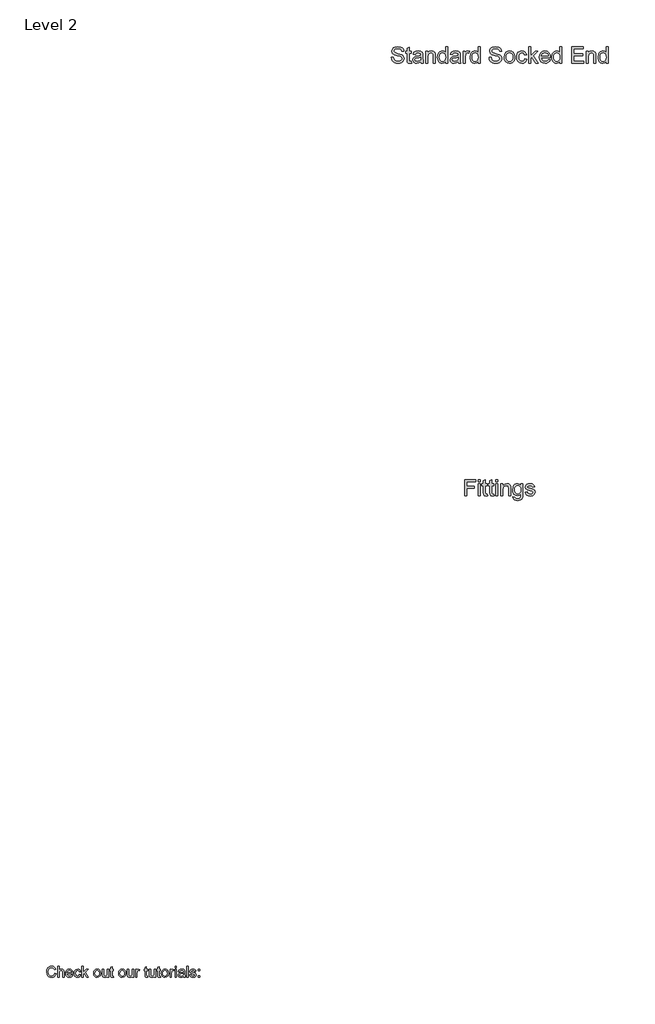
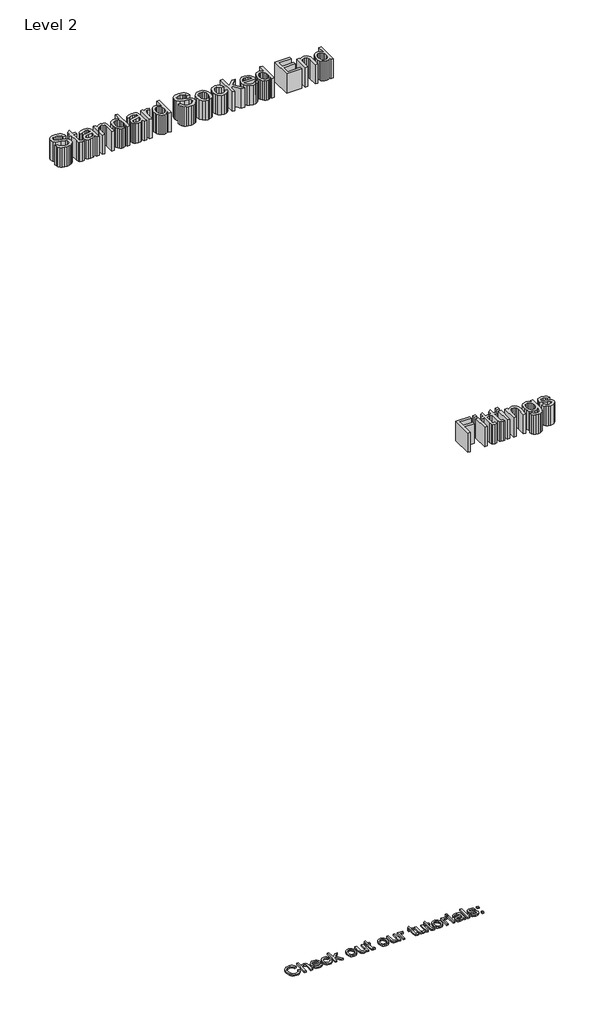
# One storey, part 1 of 2: 3 proxies.
"""IFC4 building model written with IfcOpenShell, lengths in millimetres."""

from ifc_helpers import new_model, si_unit, origin, origin_with_axes, place, context, project, spatial, polyline, outline, extrude, element, save

model = new_model("IFC4")

# Units and contexts
model_context = context("Model", 3, world=origin())
ifc_project = project(units=[si_unit("LENGTHUNIT", "METRE", prefix="MILLI")], contexts=[model_context])

# Site, building, storey
site = spatial("IfcSite", under=ifc_project)
building = spatial("IfcBuilding", under=site)
storey = spatial("IfcBuildingStorey", under=building, Name="Level 2", Elevation=0.0)

# Proxies
placement = place(None, origin())
element("IfcBuildingElementProxy", 1, Name="Arial 100", ObjectType="Arial 100", at=placement, inside=storey, context=model_context, shape_type="SweptSolid", body=[
    extrude(outline(polyline([(15956.3184158, -7572.0639447), (15968.8754545, -7575.3013062), (15963.0813131, -7589.9338126), (15953.9884965, -7600.6238502), (15942.0445944, -7607.1629527), (15927.6971966, -7609.3426535), (15913.1321352, -7607.6933159), (15901.5653122, -7602.7453031), (15892.6993561, -7594.6702933), (15886.2368957, -7583.6399648), (15880.9761832, -7556.7845791), (15882.4630396, -7542.1367444), (15886.9236088, -7529.4877351), (15894.1248988, -7519.2391558), (15903.8339178, -7511.7926111), (15915.3486242, -7507.2584655), (15927.9669767, -7505.7470837), (15941.7349604, -7507.7029896), (15953.1178424, -7513.5707074), (15961.7600036, -7522.9884865), (15967.3058247, -7535.5945762), (15954.7487859, -7538.5866831), (15944.4480901, -7523.147902), (15927.4764674, -7518.3041224), (15907.8315688, -7523.6751996), (15896.7337953, -7538.0961738), (15893.5332219, -7556.7600537), (15897.3224065, -7578.391515), (15909.1191558, -7592.2116153), (15926.4463978, -7596.7856147), (15936.9279689, -7595.2282476), (15945.6621006, -7590.5561463), (15952.2563854, -7582.8183617), (15956.3184158, -7572.0639447)])), origin_with_axes(), (0.0, 0.0, 1.0), 10.0),
    extrude(outline(polyline([(15984.571753, -7607.7730237), (15984.571753, -7507.3167135), (15997.1287918, -7507.3167135), (15997.1287918, -7544.2520658), (16006.9205842, -7535.3861097), (16018.9809823, -7532.4307911), (16033.0831254, -7535.6558899), (16041.6425132, -7544.5708969), (16044.2176872, -7561.0765357), (16044.2176872, -7607.7730237), (16031.6606484, -7607.7730237), (16031.6606484, -7562.3763855), (16027.6629974, -7549.1326336), (16016.3322319, -7544.9878298), (16006.0437988, -7547.783733), (15999.1766682, -7555.3621021), (15997.1287918, -7568.5813284), (15997.1287918, -7607.7730237), (15984.571753, -7607.7730237)])), origin_with_axes(), (0.0, 0.0, 1.0), 10.0),
    extrude(outline(polyline([(16113.1342476, -7585.7982058), (16125.4460317, -7587.3678357), (16121.009988, -7596.6445933), (16113.9313252, -7603.5791689), (16104.3694591, -7607.9017824), (16092.4838049, -7609.3426535), (16077.750131, -7606.8563844), (16066.4132342, -7599.3975769), (16059.184353, -7587.4506091), (16056.7747259, -7571.4998589), (16059.2088785, -7555.0126142), (16066.5113361, -7542.682436), (16077.6949487, -7534.9937023), (16091.7725664, -7532.4307911), (16105.4117914, -7534.9875709), (16116.3102955, -7542.6579105), (16123.4564032, -7554.9635633), (16125.8384392, -7571.4262825), (16125.7648628, -7574.8107969), (16069.3317647, -7574.8107969), (16071.5053341, -7584.2101819), (16076.5545145, -7591.120232), (16083.8416437, -7595.3692691), (16092.7290596, -7596.7856147), (16105.0408437, -7594.1613898), (16113.1342476, -7585.7982058)]), holes=[polyline([(16069.3317647, -7562.2537581), (16113.2814004, -7562.2537581), (16108.2536798, -7550.8739417), (16100.9328281, -7546.4593578), (16091.7235155, -7544.9878298), (16076.2602089, -7549.6844566), (16071.3949696, -7555.1750954), (16069.3317647, -7562.2537581)])]), origin_with_axes(), (0.0, 0.0, 1.0), 10.0),
    extrude(outline(polyline([(16185.4843733, -7581.0893163), (16198.0414121, -7582.6589461), (16194.5404018, -7593.8272304), (16187.9614454, -7602.2670565), (16178.9238111, -7607.5737543), (16168.0467667, -7609.3426535), (16154.6895846, -7606.8747785), (16144.2448016, -7599.4711533), (16137.5033641, -7587.4567405), (16135.2562182, -7571.1565024), (16139.0944537, -7550.2975933), (16150.7931012, -7536.8944259), (16167.8750885, -7532.4307911), (16178.4854183, -7533.9636327), (16186.968164, -7538.5621576), (16193.0535454, -7545.9811112), (16196.4717822, -7555.9752387), (16183.9147435, -7557.5448686), (16178.0899452, -7548.1393522), (16167.9731903, -7544.9878298), (16159.8583267, -7546.5390656), (16153.4173261, -7551.1927728), (16149.2142743, -7559.2003376), (16147.813257, -7570.8131459), (16149.1836174, -7582.582304), (16153.2946987, -7590.61746), (16159.6192034, -7595.243576), (16167.6298338, -7596.7856147), (16179.4633713, -7592.9351165), (16185.4843733, -7581.0893163)])), origin_with_axes(), (0.0, 0.0, 1.0), 10.0),
    extrude(outline(polyline([(16209.028821, -7607.7730237), (16209.028821, -7507.3167135), (16221.5858598, -7507.3167135), (16221.5858598, -7561.2972649), (16249.7410951, -7534.0004209), (16267.1051253, -7534.0004209), (16238.6065334, -7561.6406215), (16268.6747551, -7607.7730237), (16254.0085263, -7607.7730237), (16229.6056873, -7570.3716875), (16221.5858598, -7578.1462603), (16221.5858598, -7607.7730237), (16209.028821, -7607.7730237)])), origin_with_axes(), (0.0, 0.0, 1.0), 10.0),
    extrude(outline(polyline([(16315.7636505, -7570.8867223), (16318.4798459, -7553.0996278), (16326.6284321, -7540.5977713), (16336.6961361, -7534.4725361), (16348.7504028, -7532.4307911), (16361.942038, -7534.9170602), (16372.4787915, -7542.3758677), (16379.3857759, -7554.2186022), (16381.6881041, -7569.8566527), (16377.6168767, -7592.1993525), (16365.7588137, -7604.8422304), (16348.7504028, -7609.3426535), (16335.399352, -7606.8655814), (16324.8748613, -7599.4343651), (16318.0414532, -7587.3433102), (16315.7636505, -7570.8867223)]), holes=[polyline([(16328.3206893, -7570.8621968), (16329.7738232, -7582.2266848), (16334.1332248, -7590.3231544), (16340.6937871, -7595.1699996), (16348.7504028, -7596.7856147), (16356.7702303, -7595.1608026), (16363.3185298, -7590.2863662), (16367.6779314, -7582.0825977), (16369.1310653, -7570.4697894), (16367.6687344, -7559.4363952), (16363.2817416, -7551.4502902), (16356.724245, -7546.6034449), (16348.7504028, -7544.9878298), (16340.6937871, -7546.5973136), (16334.1332248, -7551.4257647), (16329.7738232, -7559.5038402), (16328.3206893, -7570.8621968)])]), origin_with_axes(), (0.0, 0.0, 1.0), 10.0),
    extrude(outline(polyline([(16442.9036681, -7607.7730237), (16442.9036681, -7595.0933576), (16433.0689561, -7605.7803295), (16420.2421372, -7609.3426535), (16408.4331251, -7606.8410559), (16400.2906703, -7600.5625366), (16396.5505367, -7591.3164357), (16395.8147727, -7579.6423138), (16395.8147727, -7534.0004209), (16408.3718115, -7534.0004209), (16408.3718115, -7573.7316764), (16409.1321009, -7586.5339698), (16414.0985078, -7594.0510252), (16423.4549733, -7596.7856147), (16433.9396101, -7593.9897116), (16440.8680544, -7586.3745543), (16442.9036681, -7572.3827757), (16442.9036681, -7534.0004209), (16455.4607068, -7534.0004209), (16455.4607068, -7607.7730237), (16442.9036681, -7607.7730237)])), origin_with_axes(), (0.0, 0.0, 1.0), 10.0),
    extrude(outline(polyline([(16499.4103425, -7597.3006495), (16500.9799724, -7608.1409057), (16491.5867188, -7609.3426535), (16481.0652937, -7607.2579889), (16475.8168439, -7601.7888099), (16474.296265, -7587.5395139), (16474.296265, -7546.5574597), (16464.8784859, -7546.5574597), (16464.8784859, -7534.0004209), (16474.296265, -7534.0004209), (16474.296265, -7516.072305), (16486.8533038, -7508.6901396), (16486.8533038, -7534.0004209), (16499.4103425, -7534.0004209), (16499.4103425, -7546.5574597), (16486.8533038, -7546.5574597), (16486.8533038, -7587.1716319), (16487.5154913, -7593.6463551), (16489.6614697, -7595.9394862), (16493.9411635, -7596.7856147), (16499.4103425, -7597.3006495)])), origin_with_axes(), (0.0, 0.0, 1.0), 10.0),
    extrude(outline(polyline([(16548.0688678, -7570.8867223), (16550.7850631, -7553.0996278), (16558.9336493, -7540.5977713), (16569.0013533, -7534.4725361), (16581.05562, -7532.4307911), (16594.2472552, -7534.9170602), (16604.7840087, -7542.3758677), (16611.6909931, -7554.2186022), (16613.9933213, -7569.8566527), (16609.9220939, -7592.1993525), (16598.0640309, -7604.8422304), (16581.05562, -7609.3426535), (16567.7045692, -7606.8655814), (16557.1800785, -7599.4343651), (16550.3466704, -7587.3433102), (16548.0688678, -7570.8867223)]), holes=[polyline([(16560.6259065, -7570.8621968), (16562.0790404, -7582.2266848), (16566.438442, -7590.3231544), (16572.9990043, -7595.1699996), (16581.05562, -7596.7856147), (16589.0754475, -7595.1608026), (16595.623747, -7590.2863662), (16599.9831486, -7582.0825977), (16601.4362825, -7570.4697894), (16599.9739516, -7559.4363952), (16595.5869588, -7551.4502902), (16589.0294622, -7546.6034449), (16581.05562, -7544.9878298), (16572.9990043, -7546.5973136), (16566.438442, -7551.4257647), (16562.0790404, -7559.5038402), (16560.6259065, -7570.8621968)])]), origin_with_axes(), (0.0, 0.0, 1.0), 10.0),
    extrude(outline(polyline([(16675.2088853, -7607.7730237), (16675.2088853, -7595.0933576), (16665.3741733, -7605.7803295), (16652.5473544, -7609.3426535), (16640.7383423, -7606.8410559), (16632.5958875, -7600.5625366), (16628.8557539, -7591.3164357), (16628.1199899, -7579.6423138), (16628.1199899, -7534.0004209), (16640.6770287, -7534.0004209), (16640.6770287, -7573.7316764), (16641.4373181, -7586.5339698), (16646.4037251, -7594.0510252), (16655.7601905, -7596.7856147), (16666.2448273, -7593.9897116), (16673.1732716, -7586.3745543), (16675.2088853, -7572.3827757), (16675.2088853, -7534.0004209), (16687.7659241, -7534.0004209), (16687.7659241, -7607.7730237), (16675.2088853, -7607.7730237)])), origin_with_axes(), (0.0, 0.0, 1.0), 10.0),
    extrude(outline(polyline([(16705.0318524, -7607.7730237), (16705.0318524, -7534.0004209), (16716.0192613, -7534.0004209), (16716.0192613, -7544.9142534), (16723.8183596, -7534.8588122), (16731.6665088, -7532.4307911), (16744.2725985, -7536.3058147), (16740.0787438, -7547.5630038), (16731.2495759, -7544.9878298), (16724.1494534, -7547.4649019), (16719.6245048, -7554.3320325), (16717.5888911, -7568.9982614), (16717.5888911, -7607.7730237), (16705.0318524, -7607.7730237)])), origin_with_axes(), (0.0, 0.0, 1.0), 10.0),
    extrude(outline(polyline([(16818.0452013, -7597.3006495), (16819.6148311, -7608.1409057), (16810.2215775, -7609.3426535), (16799.7001525, -7607.2579889), (16794.4517027, -7601.7888099), (16792.9311237, -7587.5395139), (16792.9311237, -7546.5574597), (16783.5133447, -7546.5574597), (16783.5133447, -7534.0004209), (16792.9311237, -7534.0004209), (16792.9311237, -7516.072305), (16805.4881625, -7508.6901396), (16805.4881625, -7534.0004209), (16818.0452013, -7534.0004209), (16818.0452013, -7546.5574597), (16805.4881625, -7546.5574597), (16805.4881625, -7587.1716319), (16806.1503501, -7593.6463551), (16808.2963284, -7595.9394862), (16812.5760223, -7596.7856147), (16818.0452013, -7597.3006495)])), origin_with_axes(), (0.0, 0.0, 1.0), 10.0),
    extrude(outline(polyline([(16877.6911354, -7607.7730237), (16877.6911354, -7595.0933576), (16867.8564234, -7605.7803295), (16855.0296045, -7609.3426535), (16843.2205925, -7606.8410559), (16835.0781377, -7600.5625366), (16831.338004, -7591.3164357), (16830.60224, -7579.6423138), (16830.60224, -7534.0004209), (16843.1592788, -7534.0004209), (16843.1592788, -7573.7316764), (16843.9195683, -7586.5339698), (16848.8859752, -7594.0510252), (16858.2424406, -7596.7856147), (16868.7270775, -7593.9897116), (16875.6555217, -7586.3745543), (16877.6911354, -7572.3827757), (16877.6911354, -7534.0004209), (16890.2481742, -7534.0004209), (16890.2481742, -7607.7730237), (16877.6911354, -7607.7730237)])), origin_with_axes(), (0.0, 0.0, 1.0), 10.0),
    extrude(outline(polyline([(16934.1978099, -7597.3006495), (16935.7674397, -7608.1409057), (16926.3741861, -7609.3426535), (16915.8527611, -7607.2579889), (16910.6043113, -7601.7888099), (16909.0837324, -7587.5395139), (16909.0837324, -7546.5574597), (16899.6659533, -7546.5574597), (16899.6659533, -7534.0004209), (16909.0837324, -7534.0004209), (16909.0837324, -7516.072305), (16921.6407711, -7508.6901396), (16921.6407711, -7534.0004209), (16934.1978099, -7534.0004209), (16934.1978099, -7546.5574597), (16921.6407711, -7546.5574597), (16921.6407711, -7587.1716319), (16922.3029587, -7593.6463551), (16924.448937, -7595.9394862), (16928.7286309, -7596.7856147), (16934.1978099, -7597.3006495)])), origin_with_axes(), (0.0, 0.0, 1.0), 10.0),
    extrude(outline(polyline([(16943.615589, -7570.8867223), (16946.3317844, -7553.0996278), (16954.4803706, -7540.5977713), (16964.5480745, -7534.4725361), (16976.6023412, -7532.4307911), (16989.7939764, -7534.9170602), (17000.3307299, -7542.3758677), (17007.2377143, -7554.2186022), (17009.5400425, -7569.8566527), (17005.4688151, -7592.1993525), (16993.6107521, -7604.8422304), (16976.6023412, -7609.3426535), (16963.2512905, -7606.8655814), (16952.7267997, -7599.4343651), (16945.8933917, -7587.3433102), (16943.615589, -7570.8867223)]), holes=[polyline([(16956.1726277, -7570.8621968), (16957.6257616, -7582.2266848), (16961.9851633, -7590.3231544), (16968.5457255, -7595.1699996), (16976.6023412, -7596.7856147), (16984.6221687, -7595.1608026), (16991.1704682, -7590.2863662), (16995.5298699, -7582.0825977), (16996.9830037, -7570.4697894), (16995.5206728, -7559.4363952), (16991.13368, -7551.4502902), (16984.5761834, -7546.6034449), (16976.6023412, -7544.9878298), (16968.5457255, -7546.5973136), (16961.9851633, -7551.4257647), (16957.6257616, -7559.5038402), (16956.1726277, -7570.8621968)])]), origin_with_axes(), (0.0, 0.0, 1.0), 10.0),
    extrude(outline(polyline([(17023.6667111, -7607.7730237), (17023.6667111, -7534.0004209), (17034.65412, -7534.0004209), (17034.65412, -7544.9142534), (17042.4532183, -7534.8588122), (17050.3013676, -7532.4307911), (17062.9074573, -7536.3058147), (17058.7136025, -7547.5630038), (17049.8844346, -7544.9878298), (17042.7843121, -7547.4649019), (17038.2593636, -7554.3320325), (17036.2237499, -7568.9982614), (17036.2237499, -7607.7730237), (17023.6667111, -7607.7730237)])), origin_with_axes(), (0.0, 0.0, 1.0), 10.0),
    extrude(outline(polyline([(17070.7556065, -7519.8737523), (17070.7556065, -7507.3167135), (17083.3126453, -7507.3167135), (17083.3126453, -7519.8737523), (17070.7556065, -7519.8737523)])), origin_with_axes(), (0.0, 0.0, 1.0), 10.0),
    extrude(outline(polyline([(17070.7556065, -7607.7730237), (17070.7556065, -7534.0004209), (17083.3126453, -7534.0004209), (17083.3126453, -7607.7730237), (17070.7556065, -7607.7730237)])), origin_with_axes(), (0.0, 0.0, 1.0), 10.0),
    extrude(outline(polyline([(17149.2370988, -7598.3552446), (17137.0602048, -7606.8655814), (17123.6079865, -7609.3426535), (17113.1141526, -7607.8527314), (17105.3733022, -7603.3829652), (17100.6000334, -7596.5955424), (17099.0089437, -7588.1526506), (17101.4124394, -7578.2198367), (17107.727747, -7571.0093496), (17116.5201267, -7566.8890713), (17127.3849083, -7565.0006104), (17149.1635224, -7560.6841283), (17149.2370988, -7557.8882251), (17145.779008, -7548.6175988), (17131.8975941, -7544.9878298), (17119.1934025, -7547.4035883), (17113.1356123, -7555.9752387), (17100.5785736, -7554.4056089), (17106.0109644, -7542.1428757), (17116.9493224, -7534.9569141), (17133.5162749, -7532.4307911), (17148.7343267, -7534.6626085), (17157.3305027, -7540.2666776), (17161.1810009, -7548.7892771), (17161.7941376, -7559.776686), (17161.7941376, -7575.3994081), (17162.4317997, -7597.2148104), (17164.9333973, -7607.7730237), (17152.3763585, -7607.7730237), (17149.2370988, -7598.3552446)]), holes=[polyline([(17149.2370988, -7573.2411671), (17128.9790636, -7577.0916653), (17118.1755957, -7579.127279), (17113.2827651, -7582.4382169), (17111.5659825, -7587.2697338), (17115.3061161, -7594.063288), (17126.2812623, -7596.7856147), (17138.9854539, -7593.7812451), (17147.1769596, -7586.5094443), (17149.1635224, -7576.7973597), (17149.2370988, -7573.2411671)])]), origin_with_axes(), (0.0, 0.0, 1.0), 10.0),
    extrude(outline(polyline([(17179.0600659, -7607.7730237), (17179.0600659, -7507.3167135), (17191.6171046, -7507.3167135), (17191.6171046, -7607.7730237), (17179.0600659, -7607.7730237)])), origin_with_axes(), (0.0, 0.0, 1.0), 10.0),
    extrude(outline(polyline([(17205.7437733, -7585.7982058), (17218.300812, -7584.228576), (17224.1133476, -7593.5482532), (17237.4306758, -7596.7856147), (17250.2329692, -7593.8180333), (17254.4022985, -7586.8528009), (17250.2084437, -7581.2119436), (17237.283523, -7577.6312255), (17218.3743884, -7571.4875962), (17210.121569, -7564.3138973), (17207.3134031, -7554.1848797), (17209.569746, -7544.8284143), (17215.7256381, -7537.6792409), (17223.7086774, -7533.9636327), (17234.5121453, -7532.4307911), (17249.7915108, -7534.8956004), (17259.5035955, -7541.5665273), (17263.8200776, -7552.8359791), (17251.2630388, -7554.4056089), (17246.5418865, -7547.4771647), (17235.4931639, -7544.9878298), (17223.4756854, -7547.3668001), (17219.8704419, -7552.9095555), (17221.3664953, -7556.5638499), (17226.0508594, -7559.3352276), (17236.8665901, -7562.0085035), (17255.297478, -7567.9191409), (17263.8568658, -7574.6145932), (17266.9593373, -7585.5284257), (17263.3173055, -7597.5459042), (17252.8081432, -7606.2647075), (17237.2589975, -7609.3426535), (17224.5977255, -7607.8588628), (17215.3577561, -7603.4074907), (17209.1896013, -7596.037588), (17205.7437733, -7585.7982058)])), origin_with_axes(), (0.0, 0.0, 1.0), 10.0),
    extrude(outline(polyline([(17284.2252656, -7607.7730237), (17284.2252656, -7595.2159849), (17296.7823043, -7595.2159849), (17296.7823043, -7607.7730237), (17284.2252656, -7607.7730237)])), origin_with_axes(), (0.0, 0.0, 1.0), 10.0),
    extrude(outline(polyline([(17284.2252656, -7546.5574597), (17284.2252656, -7534.0004209), (17296.7823043, -7534.0004209), (17296.7823043, -7546.5574597), (17284.2252656, -7546.5574597)])), origin_with_axes(), (0.0, 0.0, 1.0), 10.0),
])
element("IfcBuildingElementProxy", 2, Name="Arial 150", ObjectType="Arial 150", at=placement, inside=storey, context=model_context, shape_type="SweptSolid", body=[
    extrude(outline(polyline([(19072.1802626, 903.6990626), (19091.0158207, 903.6990626), (19097.0858736, 884.8451104), (19111.911518, 872.9257337), (19134.4994725, 868.3823911), (19154.1811593, 871.8220877), (19166.8914822, 881.276655), (19171.0669429, 893.9134016), (19167.9399459, 905.6672313), (19155.1376525, 914.2204877), (19127.7120497, 921.4125807), (19098.1895196, 930.7016011), (19082.1682587, 944.7179051), (19076.8891521, 963.4430986), (19078.5216285, 974.47496), (19083.4190575, 984.7618603), (19091.4526806, 993.4806636), (19102.493739, 999.8082339), (19130.4159824, 1004.9401877), (19160.214424, 999.5691106), (19171.63716, 992.9380376), (19180.0800517, 983.786973), (19185.4235377, 972.6861338), (19187.5480562, 960.2057371), (19168.7124981, 960.2057371), (19165.2544073, 971.444532), (19158.0439202, 979.55633), (19146.7775341, 984.4675547), (19131.1517464, 986.1046295), (19115.1580766, 984.4859488), (19104.1859961, 979.6299064), (19097.8400317, 972.4837987), (19095.7247103, 963.9949216), (19097.2238294, 956.7568434), (19101.7211868, 950.9351108), (19132.4761216, 940.4136857), (19165.8062303, 930.9591185), (19176.5437861, 924.1257104), (19184.0347832, 915.6920157), (19188.4355716, 905.7500048), (19189.902501, 894.3916482), (19188.2148424, 882.7803727), (19183.1518664, 871.8588759), (19174.9205068, 862.459491), (19163.7276971, 855.4145508), (19150.2678146, 851.0137624), (19135.2352365, 849.5468329), (19116.781356, 851.1287255), (19101.5924281, 855.8744033), (19089.493709, 863.8022603), (19080.3104547, 874.9306906), (19074.4151457, 888.4871421), (19072.1802626, 903.6990626)])), origin_with_axes(), (0.0, 0.0, 1.0), 150.0),
    extrude(outline(polyline([(19255.8269546, 867.6098389), (19258.1813993, 851.3494547), (19244.0915189, 849.5468329), (19228.3093813, 852.6738299), (19220.4367066, 860.8775984), (19218.1558382, 882.2515423), (19218.1558382, 943.7246237), (19204.0291696, 943.7246237), (19204.0291696, 962.5601819), (19218.1558382, 962.5601819), (19218.1558382, 989.4523557), (19236.9913964, 1000.5256038), (19236.9913964, 962.5601819), (19255.8269546, 962.5601819), (19255.8269546, 943.7246237), (19236.9913964, 943.7246237), (19236.9913964, 882.8033653), (19237.9846778, 873.0912806), (19241.2036452, 869.651584), (19247.6231861, 868.3823911), (19255.8269546, 867.6098389)])), origin_with_axes(), (0.0, 0.0, 1.0), 150.0),
    extrude(outline(polyline([(19345.2958558, 866.0279463), (19327.0305147, 853.2624411), (19306.8521873, 849.5468329), (19291.1114364, 851.7817161), (19279.5001609, 858.4863654), (19272.3402576, 868.6674996), (19269.9536232, 881.3318373), (19273.5588667, 896.2310581), (19283.0318281, 907.0467888), (19296.2203976, 913.2272063), (19312.51757, 916.0598977), (19345.1854912, 922.5346208), (19345.2958558, 926.7284755), (19343.9990717, 935.1345791), (19340.1087196, 940.6344149), (19331.4083105, 944.7179051), (19319.2865987, 946.0790685), (19300.2303114, 942.4554308), (19291.1436261, 929.5979551), (19272.3080679, 931.9523999), (19280.4566541, 950.3464996), (19296.8641911, 961.1254421), (19321.7146199, 964.9146266), (19344.5416977, 961.5669005), (19357.4359616, 953.1607969), (19363.2117089, 940.3768975), (19364.1314139, 923.8957842), (19364.1314139, 900.4617011), (19365.0879071, 867.7385976), (19368.8403035, 851.9012777), (19350.0047453, 851.9012777), (19345.2958558, 866.0279463)]), holes=[polyline([(19345.2958558, 903.6990626), (19314.908803, 897.9233153), (19298.7036011, 894.8698947), (19291.3643553, 889.9034878), (19288.7891813, 882.6562125), (19294.3993817, 872.4658812), (19310.862101, 868.3823911), (19329.9183884, 872.8889455), (19342.205647, 883.7966467), (19345.1854912, 898.3647737), (19345.2958558, 903.6990626)])]), origin_with_axes(), (0.0, 0.0, 1.0), 150.0),
    extrude(outline(polyline([(19390.0303064, 851.9012777), (19390.0303064, 962.5601819), (19408.8658645, 962.5601819), (19408.8658645, 947.1091381), (19423.2684447, 960.4632545), (19442.9317373, 964.9146266), (19460.7188318, 961.3277772), (19472.8589376, 951.9099981), (19478.5059262, 938.059241), (19479.4992076, 919.8490822), (19479.4992076, 851.9012777), (19460.6636495, 851.9012777), (19460.6636495, 917.3106965), (19458.4931457, 933.9757508), (19450.8228061, 942.7865246), (19437.891754, 946.0790685), (19426.8598926, 944.2304614), (19417.4559091, 938.6846404), (19411.0133757, 927.9700773), (19408.8658645, 910.6152441), (19408.8658645, 851.9012777), (19390.0303064, 851.9012777)])), origin_with_axes(), (0.0, 0.0, 1.0), 150.0),
    extrude(outline(polyline([(19573.6769984, 851.9012777), (19573.6769984, 869.6699781), (19561.2149958, 854.5776192), (19543.9889214, 849.5468329), (19531.8120273, 851.3678488), (19520.6652029, 856.8308964), (19511.2290297, 865.5542983), (19504.1840895, 877.1563767), (19499.7970967, 891.1680822), (19498.3347658, 907.1203652), (19503.724237, 937.1027478), (19510.4564775, 948.9945333), (19519.8742566, 957.7409277), (19531.2648029, 963.1212019), (19543.915345, 964.9146266), (19561.2793751, 959.7826728), (19573.6769984, 946.4469505), (19573.6769984, 1002.5857429), (19592.5125565, 1002.5857429), (19592.5125565, 851.9012777), (19573.6769984, 851.9012777)]), holes=[polyline([(19517.1703239, 907.1939416), (19519.2948424, 890.1564067), (19525.668398, 878.0392935), (19534.9298272, 870.7966167), (19545.7179668, 868.3823911), (19556.5015077, 870.6862521), (19565.5284122, 877.5978351), (19571.6398518, 889.2458987), (19573.6769984, 905.7592018), (19571.6030636, 923.8130107), (19565.3812594, 936.3301956), (19556.1244287, 943.6418503), (19544.9454146, 946.0790685), (19534.0469105, 943.7384193), (19525.116575, 936.7164717), (19519.1568867, 924.6545408), (19517.1703239, 907.1939416)])]), origin_with_axes(), (0.0, 0.0, 1.0), 150.0),
    extrude(outline(polyline([(19691.3992368, 866.0279463), (19673.1338958, 853.2624411), (19652.9555683, 849.5468329), (19637.2148175, 851.7817161), (19625.603542, 858.4863654), (19618.4436387, 868.6674996), (19616.0570042, 881.3318373), (19619.6622478, 896.2310581), (19629.1352092, 907.0467888), (19642.3237787, 913.2272063), (19658.6209511, 916.0598977), (19691.2888722, 922.5346208), (19691.3992368, 926.7284755), (19690.1024528, 935.1345791), (19686.2121007, 940.6344149), (19677.5116915, 944.7179051), (19665.3899798, 946.0790685), (19646.3336924, 942.4554308), (19637.2470072, 929.5979551), (19618.411449, 931.9523999), (19626.5600352, 950.3464996), (19642.9675722, 961.1254421), (19667.818001, 964.9146266), (19690.6450788, 961.5669005), (19703.5393427, 953.1607969), (19709.31509, 940.3768975), (19710.234795, 923.8957842), (19710.234795, 900.4617011), (19711.1912882, 867.7385976), (19714.9436845, 851.9012777), (19696.1081264, 851.9012777), (19691.3992368, 866.0279463)]), holes=[polyline([(19691.3992368, 903.6990626), (19661.012184, 897.9233153), (19644.8069822, 894.8698947), (19637.4677364, 889.9034878), (19634.8925624, 882.6562125), (19640.5027628, 872.4658812), (19656.9654821, 868.3823911), (19676.0217694, 872.8889455), (19688.3090281, 883.7966467), (19691.2888722, 898.3647737), (19691.3992368, 903.6990626)])]), origin_with_axes(), (0.0, 0.0, 1.0), 150.0),
    extrude(outline(polyline([(19736.1336875, 851.9012777), (19736.1336875, 962.5601819), (19752.6148008, 962.5601819), (19752.6148008, 946.1894331), (19764.3134483, 961.2725949), (19776.0856721, 964.9146266), (19794.9948067, 959.1020911), (19788.7040246, 942.2163075), (19775.4602727, 946.0790685), (19764.810089, 942.3634603), (19758.0226662, 932.0627645), (19754.9692456, 910.0634211), (19754.9692456, 851.9012777), (19736.1336875, 851.9012777)])), origin_with_axes(), (0.0, 0.0, 1.0), 150.0),
    extrude(outline(polyline([(19875.0459288, 851.9012777), (19875.0459288, 869.6699781), (19862.5839262, 854.5776192), (19845.3578518, 849.5468329), (19833.1809578, 851.3678488), (19822.0341333, 856.8308964), (19812.5979602, 865.5542983), (19805.5530199, 877.1563767), (19801.1660272, 891.1680822), (19799.7036962, 907.1203652), (19805.0931675, 937.1027478), (19811.825408, 948.9945333), (19821.243187, 957.7409277), (19832.6337333, 963.1212019), (19845.2842754, 964.9146266), (19862.6483056, 959.7826728), (19875.0459288, 946.4469505), (19875.0459288, 1002.5857429), (19893.881487, 1002.5857429), (19893.881487, 851.9012777), (19875.0459288, 851.9012777)]), holes=[polyline([(19818.5392544, 907.1939416), (19820.6637729, 890.1564067), (19827.0373285, 878.0392935), (19836.2987577, 870.7966167), (19847.0868972, 868.3823911), (19857.8704382, 870.6862521), (19866.8973426, 877.5978351), (19873.0087823, 889.2458987), (19875.0459288, 905.7592018), (19872.9719941, 923.8130107), (19866.7501898, 936.3301956), (19857.4933591, 943.6418503), (19846.314345, 946.0790685), (19835.4158409, 943.7384193), (19826.4855055, 936.7164717), (19820.5258172, 924.6545408), (19818.5392544, 907.1939416)])]), origin_with_axes(), (0.0, 0.0, 1.0), 150.0),
    extrude(outline(polyline([(19976.2870539, 903.6990626), (19995.1226121, 903.6990626), (20001.192665, 884.8451104), (20016.0183094, 872.9257337), (20038.6062639, 868.3823911), (20058.2879506, 871.8220877), (20070.9982736, 881.276655), (20075.1737342, 893.9134016), (20072.0467373, 905.6672313), (20059.2444438, 914.2204877), (20031.8188411, 921.4125807), (20002.296311, 930.7016011), (19986.2750501, 944.7179051), (19980.9959434, 963.4430986), (19982.6284198, 974.47496), (19987.5258489, 984.7618603), (19995.5594719, 993.4806636), (20006.6005303, 999.8082339), (20034.5227737, 1004.9401877), (20064.3212154, 999.5691106), (20075.7439513, 992.9380376), (20084.1868431, 983.786973), (20089.5303291, 972.6861338), (20091.6548476, 960.2057371), (20072.8192894, 960.2057371), (20069.3611987, 971.444532), (20062.1507116, 979.55633), (20050.8843255, 984.4675547), (20035.2585377, 986.1046295), (20019.264868, 984.4859488), (20008.2927875, 979.6299064), (20001.9468231, 972.4837987), (19999.8315016, 963.9949216), (20001.3306207, 956.7568434), (20005.8279781, 950.9351108), (20036.5829129, 940.4136857), (20069.9130217, 930.9591185), (20080.6505774, 924.1257104), (20088.1415745, 915.6920157), (20092.5423629, 905.7500048), (20094.0092924, 894.3916482), (20092.3216337, 882.7803727), (20087.2586578, 871.8588759), (20079.0272981, 862.459491), (20067.8344884, 855.4145508), (20054.3746059, 851.0137624), (20039.3420279, 849.5468329), (20020.8881473, 851.1287255), (20005.6992194, 855.8744033), (19993.6005003, 863.8022603), (19984.417246, 874.9306906), (19978.521937, 888.4871421), (19976.2870539, 903.6990626)])), origin_with_axes(), (0.0, 0.0, 1.0), 150.0),
    extrude(outline(polyline([(20115.1992953, 907.2307298), (20119.2735884, 933.9113715), (20131.4964677, 952.6641562), (20146.5980236, 961.852009), (20164.6794236, 964.9146266), (20184.4668765, 961.1852229), (20200.2720067, 949.9970117), (20210.6324834, 932.2329099), (20214.0859756, 908.7758342), (20212.5592653, 889.747138), (20207.9791345, 875.2617844), (20200.4789403, 864.4138641), (20190.19204, 856.2974676), (20177.9737592, 851.2344916), (20164.6794236, 849.5468329), (20144.6528475, 853.2624411), (20128.8661114, 864.4092655), (20118.6159993, 882.5458479), (20115.1992953, 907.2307298)]), holes=[polyline([(20134.0348534, 907.267518), (20136.2145543, 890.220786), (20142.7536567, 878.0760817), (20152.5945001, 870.8058137), (20164.6794236, 868.3823911), (20176.7091649, 870.8196093), (20186.5316142, 878.131264), (20193.0707166, 890.4369167), (20195.2504174, 907.8561292), (20193.056921, 924.4062204), (20186.4764319, 936.3853779), (20176.640187, 943.6556458), (20164.6794236, 946.0790685), (20152.5945001, 943.6648429), (20142.7536567, 936.4221661), (20136.2145543, 924.3050529), (20134.0348534, 907.267518)])]), origin_with_axes(), (0.0, 0.0, 1.0), 150.0),
    extrude(outline(polyline([(20305.9093216, 891.9268388), (20324.7448797, 889.572394), (20319.4933643, 872.8199677), (20309.6249297, 860.1602285), (20296.0684782, 852.2001818), (20279.7529117, 849.5468329), (20259.7171386, 853.2486455), (20244.0499641, 864.3540832), (20233.9378078, 882.3757025), (20230.567089, 906.8260596), (20232.0064273, 923.587683), (20236.3244422, 938.1144233), (20243.5901116, 949.8452604), (20253.8724134, 958.2191743), (20266.1734676, 963.2407635), (20279.4953943, 964.9146266), (20295.4108891, 962.6153642), (20308.1350077, 955.7175767), (20317.2630797, 944.5891464), (20322.390435, 929.5979551), (20303.5548768, 927.2435103), (20294.8176794, 941.3517848), (20279.6425471, 946.0790685), (20267.4702516, 943.7522149), (20257.8087507, 936.771654), (20251.504173, 924.7603069), (20249.4026471, 907.3410944), (20251.4581878, 889.6873571), (20257.6248097, 877.6346233), (20267.1115667, 870.6954491), (20279.1275123, 868.3823911), (20288.8809837, 869.8263279), (20296.8778186, 874.1581384), (20302.6949527, 881.4881872), (20305.9093216, 891.9268388)])), origin_with_axes(), (0.0, 0.0, 1.0), 150.0),
    extrude(outline(polyline([(20341.2259931, 851.9012777), (20341.2259931, 1002.5857429), (20360.0615513, 1002.5857429), (20360.0615513, 921.6149158), (20402.2944043, 962.5601819), (20428.3404496, 962.5601819), (20385.5925617, 921.099881), (20430.6948944, 851.9012777), (20408.695551, 851.9012777), (20372.0912925, 908.003282), (20360.0615513, 896.3414227), (20360.0615513, 851.9012777), (20341.2259931, 851.9012777)])), origin_with_axes(), (0.0, 0.0, 1.0), 150.0),
    extrude(outline(polyline([(20524.6519559, 884.8635045), (20543.1196321, 882.5090597), (20536.4655665, 868.5939232), (20525.8475724, 858.1920598), (20511.5047731, 851.7081397), (20493.6762919, 849.5468329), (20471.5757811, 853.2762367), (20454.5704358, 864.4644478), (20443.727114, 882.3848995), (20440.1126734, 906.3110248), (20443.7639022, 931.0418919), (20454.7175886, 949.5371592), (20471.4930076, 961.0702598), (20492.6094341, 964.9146266), (20513.0682716, 961.0794568), (20529.4160278, 949.5739474), (20540.1351894, 931.1154683), (20543.7082433, 906.4213894), (20543.5978787, 901.3446179), (20458.9482316, 901.3446179), (20462.2085858, 887.2455404), (20469.7823563, 876.8804652), (20480.7130501, 870.5069096), (20494.0441739, 868.3823911), (20512.5118501, 872.3187284), (20524.6519559, 884.8635045)]), holes=[polyline([(20458.9482316, 920.180176), (20524.8726851, 920.180176), (20522.3251023, 930.131384), (20517.3311042, 937.2499006), (20506.3498267, 943.8717765), (20492.5358577, 946.0790685), (20479.8393304, 944.3178334), (20469.3408979, 939.0341283), (20462.0430389, 930.7981701), (20458.9482316, 920.180176)])]), origin_with_axes(), (0.0, 0.0, 1.0), 150.0),
    extrude(outline(polyline([(20630.8226997, 851.9012777), (20630.8226997, 869.6699781), (20618.3606971, 854.5776192), (20601.1346227, 849.5468329), (20588.9577287, 851.3678488), (20577.8109042, 856.8308964), (20568.374731, 865.5542983), (20561.3297908, 877.1563767), (20556.942798, 891.1680822), (20555.4804671, 907.1203652), (20560.8699383, 937.1027478), (20567.6021789, 948.9945333), (20577.0199579, 957.7409277), (20588.4105042, 963.1212019), (20601.0610463, 964.9146266), (20618.4250765, 959.7826728), (20630.8226997, 946.4469505), (20630.8226997, 1002.5857429), (20649.6582579, 1002.5857429), (20649.6582579, 851.9012777), (20630.8226997, 851.9012777)]), holes=[polyline([(20574.3160253, 907.1939416), (20576.4405438, 890.1564067), (20582.8140994, 878.0392935), (20592.0755286, 870.7966167), (20602.8636681, 868.3823911), (20613.6472091, 870.6862521), (20622.6741135, 877.5978351), (20628.7855532, 889.2458987), (20630.8226997, 905.7592018), (20628.748765, 923.8130107), (20622.5269607, 936.3301956), (20613.27013, 943.6418503), (20602.0911159, 946.0790685), (20591.1926118, 943.7384193), (20582.2622764, 936.7164717), (20576.302588, 924.6545408), (20574.3160253, 907.1939416)])]), origin_with_axes(), (0.0, 0.0, 1.0), 150.0),
    extrude(outline(polyline([(20739.1271591, 851.9012777), (20739.1271591, 1002.5857429), (20847.4316185, 1002.5857429), (20847.4316185, 983.7501848), (20757.9627173, 983.7501848), (20757.9627173, 939.0157342), (20842.7227289, 939.0157342), (20842.7227289, 920.180176), (20757.9627173, 920.180176), (20757.9627173, 870.7368359), (20849.7860633, 870.7368359), (20849.7860633, 851.9012777), (20739.1271591, 851.9012777)])), origin_with_axes(), (0.0, 0.0, 1.0), 150.0),
    extrude(outline(polyline([(20875.6849557, 851.9012777), (20875.6849557, 962.5601819), (20894.5205139, 962.5601819), (20894.5205139, 947.1091381), (20908.923094, 960.4632545), (20928.5863866, 964.9146266), (20946.3734811, 961.3277772), (20958.5135869, 951.9099981), (20964.1605756, 938.059241), (20965.1538569, 919.8490822), (20965.1538569, 851.9012777), (20946.3182988, 851.9012777), (20946.3182988, 917.3106965), (20944.147795, 933.9757508), (20936.4774554, 942.7865246), (20923.5464033, 946.0790685), (20912.514542, 944.2304614), (20903.1105585, 938.6846404), (20896.668025, 927.9700773), (20894.5205139, 910.6152441), (20894.5205139, 851.9012777), (20875.6849557, 851.9012777)])), origin_with_axes(), (0.0, 0.0, 1.0), 150.0),
    extrude(outline(polyline([(21059.3316477, 851.9012777), (21059.3316477, 869.6699781), (21046.8696451, 854.5776192), (21029.6435707, 849.5468329), (21017.4666767, 851.3678488), (21006.3198522, 856.8308964), (20996.883679, 865.5542983), (20989.8387388, 877.1563767), (20985.451746, 891.1680822), (20983.9894151, 907.1203652), (20989.3788863, 937.1027478), (20996.1111268, 948.9945333), (21005.5289059, 957.7409277), (21016.9194522, 963.1212019), (21029.5699943, 964.9146266), (21046.9340245, 959.7826728), (21059.3316477, 946.4469505), (21059.3316477, 1002.5857429), (21078.1672059, 1002.5857429), (21078.1672059, 851.9012777), (21059.3316477, 851.9012777)]), holes=[polyline([(21002.8249732, 907.1939416), (21004.9494918, 890.1564067), (21011.3230473, 878.0392935), (21020.5844766, 870.7966167), (21031.3726161, 868.3823911), (21042.1561571, 870.6862521), (21051.1830615, 877.5978351), (21057.2945012, 889.2458987), (21059.3316477, 905.7592018), (21057.257713, 923.8130107), (21051.0359087, 936.3301956), (21041.779078, 943.6418503), (21030.6000639, 946.0790685), (21019.7015598, 943.7384193), (21010.7712243, 936.7164717), (21004.811536, 924.6545408), (21002.8249732, 907.1939416)])]), origin_with_axes(), (0.0, 0.0, 1.0), 150.0),
])
element("IfcBuildingElementProxy", 3, Name="Arial 150", ObjectType="Arial 150", at=placement, inside=storey, context=model_context, shape_type="SweptSolid", body=[
    extrude(outline(polyline([(19749.2435969, -3152.3231621), (19749.2435969, -3001.6386969), (19850.4847219, -3001.6386969), (19850.4847219, -3020.474255), (19768.079155, -3020.474255), (19768.079155, -3065.2087056), (19838.7124981, -3065.2087056), (19838.7124981, -3084.0442638), (19768.079155, -3084.0442638), (19768.079155, -3152.3231621), (19749.2435969, -3152.3231621)])), origin_with_axes(), (0.0, 0.0, 1.0), 150.0),
    extrude(outline(polyline([(19874.0291696, -3020.474255), (19874.0291696, -3001.6386969), (19892.8647278, -3001.6386969), (19892.8647278, -3020.474255), (19874.0291696, -3020.474255)])), origin_with_axes(), (0.0, 0.0, 1.0), 150.0),
    extrude(outline(polyline([(19874.0291696, -3152.3231621), (19874.0291696, -3041.6642579), (19892.8647278, -3041.6642579), (19892.8647278, -3152.3231621), (19874.0291696, -3152.3231621)])), origin_with_axes(), (0.0, 0.0, 1.0), 150.0),
    extrude(outline(polyline([(19961.1436261, -3136.6146009), (19963.4980709, -3152.8749851), (19949.4081904, -3154.6776069), (19933.6260529, -3151.5506099), (19925.7533782, -3143.3468414), (19923.4725098, -3121.9728975), (19923.4725098, -3060.4998161), (19909.3458412, -3060.4998161), (19909.3458412, -3041.6642579), (19923.4725098, -3041.6642579), (19923.4725098, -3014.7720841), (19942.3080679, -3003.698836), (19942.3080679, -3041.6642579), (19961.1436261, -3041.6642579), (19961.1436261, -3060.4998161), (19942.3080679, -3060.4998161), (19942.3080679, -3121.4210745), (19943.3013493, -3131.1331592), (19946.5203168, -3134.5728558), (19952.9398576, -3135.8420487), (19961.1436261, -3136.6146009)])), origin_with_axes(), (0.0, 0.0, 1.0), 150.0),
    extrude(outline(polyline([(20020.0047453, -3136.6146009), (20022.3591901, -3152.8749851), (20008.2693097, -3154.6776069), (19992.4871721, -3151.5506099), (19984.6144974, -3143.3468414), (19982.333629, -3121.9728975), (19982.333629, -3060.4998161), (19968.2069604, -3060.4998161), (19968.2069604, -3041.6642579), (19982.333629, -3041.6642579), (19982.333629, -3014.7720841), (20001.1691872, -3003.698836), (20001.1691872, -3041.6642579), (20020.0047453, -3041.6642579), (20020.0047453, -3060.4998161), (20001.1691872, -3060.4998161), (20001.1691872, -3121.4210745), (20002.1624686, -3131.1331592), (20005.381436, -3134.5728558), (20011.8009768, -3135.8420487), (20020.0047453, -3136.6146009)])), origin_with_axes(), (0.0, 0.0, 1.0), 150.0),
    extrude(outline(polyline([(20038.8403035, -3020.474255), (20038.8403035, -3001.6386969), (20057.6758616, -3001.6386969), (20057.6758616, -3020.474255), (20038.8403035, -3020.474255)])), origin_with_axes(), (0.0, 0.0, 1.0), 150.0),
    extrude(outline(polyline([(20038.8403035, -3152.3231621), (20038.8403035, -3041.6642579), (20057.6758616, -3041.6642579), (20057.6758616, -3152.3231621), (20038.8403035, -3152.3231621)])), origin_with_axes(), (0.0, 0.0, 1.0), 150.0),
    extrude(outline(polyline([(20085.9291989, -3152.3231621), (20085.9291989, -3041.6642579), (20104.764757, -3041.6642579), (20104.764757, -3057.1153017), (20119.1673371, -3043.7611853), (20138.8306298, -3039.3098132), (20156.6177242, -3042.8966626), (20168.7578301, -3052.3144417), (20174.4048187, -3066.1651988), (20175.3981001, -3084.3753576), (20175.3981001, -3152.3231621), (20156.5625419, -3152.3231621), (20156.5625419, -3086.9137433), (20154.3920382, -3070.248689), (20146.7216986, -3061.4379152), (20133.7906464, -3058.1453713), (20122.7587851, -3059.9939783), (20113.3548016, -3065.5397994), (20106.9122682, -3076.2543625), (20104.764757, -3093.6091957), (20104.764757, -3152.3231621), (20085.9291989, -3152.3231621)])), origin_with_axes(), (0.0, 0.0, 1.0), 150.0),
    extrude(outline(polyline([(20196.588103, -3161.7409412), (20215.4236612, -3164.0953859), (20221.5305023, -3174.0281998), (20239.8142374, -3178.2220545), (20259.091254, -3173.4763768), (20268.2883039, -3160.1590486), (20269.5758908, -3138.1964935), (20256.3137449, -3148.7914949), (20240.1453312, -3152.3231621), (20220.7257604, -3148.2120808), (20206.2450054, -3135.8788369), (20197.236495, -3117.7974368), (20194.2336582, -3096.441887), (20199.6231295, -3067.2504507), (20206.2174142, -3055.4000519), (20215.2213261, -3046.5938767), (20226.3267638, -3041.130829), (20239.2256262, -3039.3098132), (20256.0286364, -3043.4300915), (20269.5758908, -3055.7909265), (20269.5758908, -3041.6642579), (20288.411449, -3041.6642579), (20288.411449, -3137.2032121), (20287.123862, -3159.2623362), (20283.2611011, -3173.7890765), (20276.6070355, -3183.4229862), (20266.9455346, -3190.8036188), (20254.4881305, -3195.4941142), (20239.4463554, -3197.0576127), (20221.9213769, -3194.8549192), (20208.1212036, -3188.2468389), (20199.269043, -3177.2149776), (20196.588103, -3161.7409412)]), holes=[polyline([(20213.0692164, -3095.1543), (20215.0787718, -3112.4309582), (20221.107438, -3124.3089481), (20230.1711306, -3131.19294), (20241.2857654, -3133.4876039), (20252.3176267, -3131.2067356), (20261.4273047, -3124.3641304), (20267.5387443, -3112.6378919), (20269.5758908, -3095.706123), (20267.4789635, -3079.376761), (20261.1881814, -3067.6183327), (20251.9451462, -3060.5136117), (20240.9914598, -3058.1453713), (20230.23551, -3060.4768235), (20221.2178026, -3067.4711799), (20215.1063629, -3079.0548642), (20213.0692164, -3095.1543)])]), origin_with_axes(), (0.0, 0.0, 1.0), 150.0),
    extrude(outline(polyline([(20309.6014519, -3119.3609353), (20328.4370101, -3117.0064905), (20331.4076572, -3125.0631062), (20337.1558134, -3130.9860064), (20357.1318057, -3135.8420487), (20376.3352458, -3131.3906766), (20382.5892398, -3120.9428279), (20381.0165442, -3116.1419679), (20376.2984576, -3112.481542), (20356.9110765, -3107.1104649), (20328.5473747, -3097.8950209), (20316.1681455, -3087.1344725), (20311.9558967, -3071.9409461), (20315.340411, -3057.906248), (20324.5742491, -3047.1824879), (20336.5488081, -3041.6090756), (20352.75401, -3039.3098132), (20375.6730583, -3043.0070272), (20390.2411853, -3053.0134175), (20396.7159084, -3069.9175952), (20377.8803502, -3072.2720399), (20370.7986218, -3061.8793736), (20354.2255379, -3058.1453713), (20336.1993202, -3061.7138267), (20330.7914548, -3070.0279598), (20333.035535, -3075.5094015), (20340.0620811, -3079.666468), (20356.2856771, -3083.6763818), (20383.932009, -3092.5423379), (20396.7710907, -3102.5855163), (20401.4247979, -3118.9562651), (20395.9617503, -3136.9824829), (20380.1980068, -3150.0606878), (20356.8742883, -3154.6776069), (20337.8823803, -3152.4519208), (20324.0224261, -3145.7748626), (20314.770194, -3134.7200086), (20309.6014519, -3119.3609353)])), origin_with_axes(), (0.0, 0.0, 1.0), 150.0),
])

save(model, "model.ifc")
